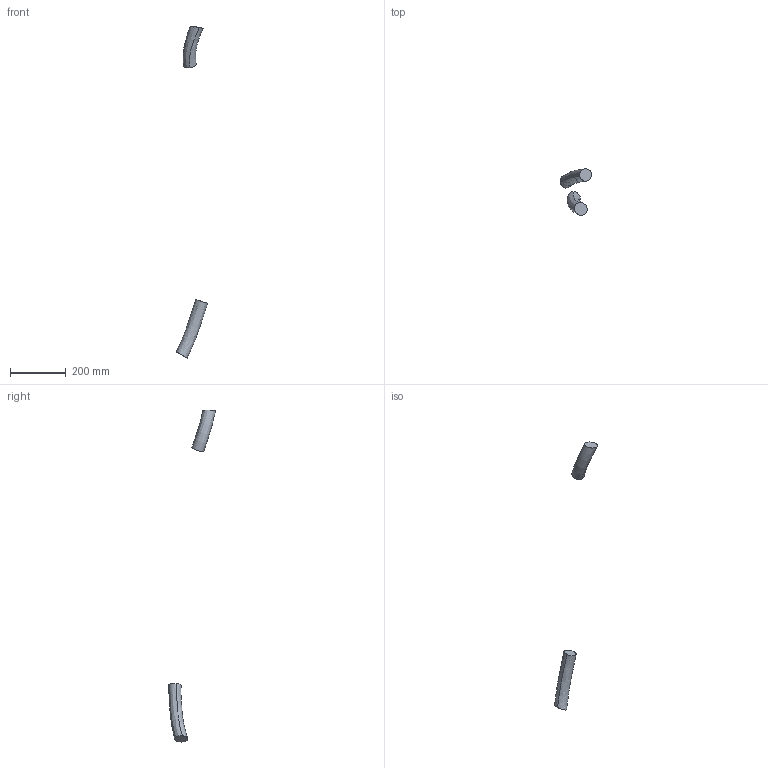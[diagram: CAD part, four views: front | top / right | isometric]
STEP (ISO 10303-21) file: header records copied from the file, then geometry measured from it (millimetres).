
FILE_DESCRIPTION (( 'STEP AP214' ), '1' );
FILE_NAME ('IRB6720-LID_215kg-265_OC_00_LINK02m_CABLE.step', '2026-05-26T07:42:45', ( '' ), ( '' ), 'SwSTEP 2.0', 'SolidWorks 2024', '' );
FILE_SCHEMA (( 'AUTOMOTIVE_DESIGN' ));
Length unit declared in the file: millimetre
Products named in the file (1): IRB6720-LID_215kg-265_OC_00_LINK02m_CABLE
Bounding box: 112.62 x 168.88 x 1192.15 mm (x, y, z)
Volume: 563876.3 mm3; surface area: 56623.3 mm2
Topology: 2 solids, 2 shells, 8 faces, 12 edges, 8 vertices
Faces by surface type: bspline 4, plane 4
Entity records: 1535 total; most frequent: CARTESIAN_POINT 1384, ORIENTED_EDGE 24, DIRECTION 18, EDGE_CURVE 12, AXIS2_PLACEMENT_3D 9, B_SPLINE_CURVE_WITH_KNOTS 8, VERTEX_POINT 8, FACE_OUTER_BOUND 8
